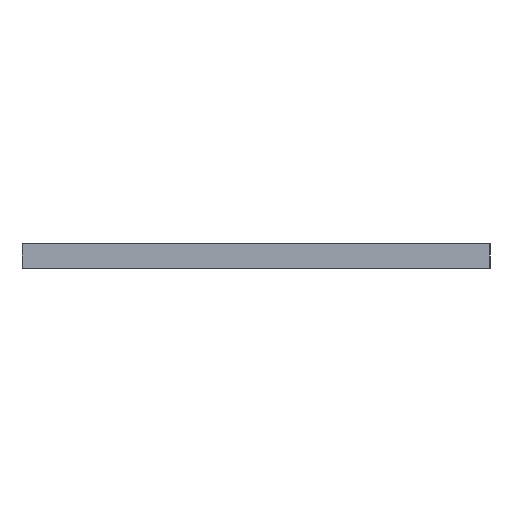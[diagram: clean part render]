
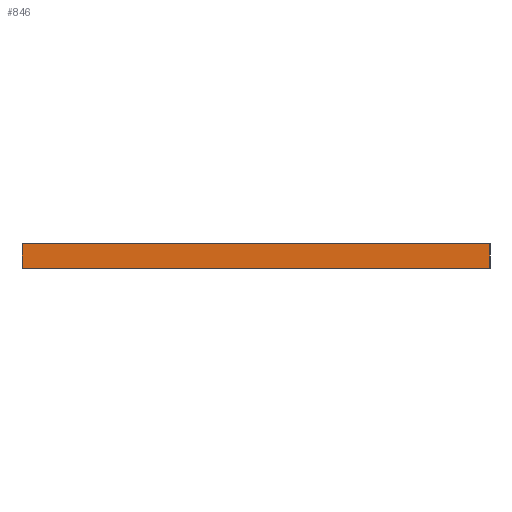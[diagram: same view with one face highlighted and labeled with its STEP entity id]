
A CAD part, left-side view. The second image highlights one B-rep face of the part: STEP entity #846.
In plain terms, the highlighted planar face has unit normal (-1, 0, 0).
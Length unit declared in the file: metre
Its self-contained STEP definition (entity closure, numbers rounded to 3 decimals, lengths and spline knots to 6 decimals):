
#25=PLANE('',#934);
#91=LINE('',#1391,#167);
#94=LINE('',#1397,#170);
#95=LINE('',#1399,#171);
#96=LINE('',#1401,#172);
#167=VECTOR('',#1139,1.);
#170=VECTOR('',#1144,1.);
#171=VECTOR('',#1145,1.);
#172=VECTOR('',#1146,1.);
#302=ORIENTED_EDGE('',*,*,#514,.T.);
#303=ORIENTED_EDGE('',*,*,#515,.F.);
#304=ORIENTED_EDGE('',*,*,#516,.F.);
#305=ORIENTED_EDGE('',*,*,#511,.T.);
#511=EDGE_CURVE('',#606,#604,#91,.T.);
#514=EDGE_CURVE('',#604,#608,#94,.T.);
#515=EDGE_CURVE('',#609,#608,#95,.T.);
#516=EDGE_CURVE('',#606,#609,#96,.T.);
#604=VERTEX_POINT('',#1389);
#606=VERTEX_POINT('',#1392);
#608=VERTEX_POINT('',#1398);
#609=VERTEX_POINT('',#1400);
#693=EDGE_LOOP('',(#302,#303,#304,#305));
#759=FACE_BOUND('',#693,.T.);
#846=ADVANCED_FACE('',(#759),#25,.F.);
#934=AXIS2_PLACEMENT_3D('',#1396,#1142,#1143);
#1139=DIRECTION('',(0.,0.,-1.));
#1142=DIRECTION('',(1.,0.,0.));
#1143=DIRECTION('',(0.,0.,-1.));
#1144=DIRECTION('',(0.,-1.,0.));
#1145=DIRECTION('',(0.,0.,-1.));
#1146=DIRECTION('',(0.,-1.,0.));
#1389=CARTESIAN_POINT('',(-0.049763,0.048744,0.013));
#1391=CARTESIAN_POINT('',(-0.049763,0.048744,0.016));
#1392=CARTESIAN_POINT('',(-0.049763,0.048744,0.016));
#1396=CARTESIAN_POINT('',(-0.049763,0.019544,0.016));
#1397=CARTESIAN_POINT('',(-0.049763,0.019544,0.013));
#1398=CARTESIAN_POINT('',(-0.049763,-0.009656,0.013));
#1399=CARTESIAN_POINT('',(-0.049763,-0.009656,0.016));
#1400=CARTESIAN_POINT('',(-0.049763,-0.009656,0.016));
#1401=CARTESIAN_POINT('',(-0.049763,0.019544,0.016));
